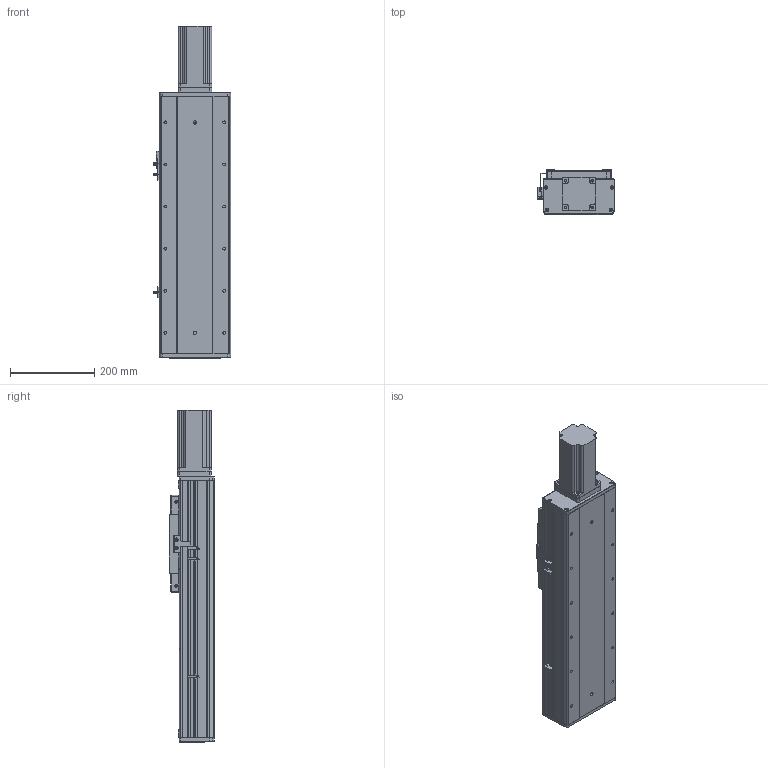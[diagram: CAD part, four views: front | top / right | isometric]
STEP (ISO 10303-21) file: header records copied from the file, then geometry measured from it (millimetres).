
FILE_DESCRIPTION (( 'STEP AP203' ), '1' );
FILE_NAME ('RY170F-L2020-300-MK.SLDASM_300.step', '2021-03-02T06:30:55', ( '盈信电脑' ), ( '东莞市道滘镇水果街19号' ), 'SwSTEP 2.0', 'SolidWorks 2012', '' );
FILE_SCHEMA (( 'CONFIG_CONTROL_DESIGN' ));
Products named in the file (22): RY170F-300眻蟀倰第奻裔啣-MK; RY170F-300眻蟀倰第菁釱-MK; RY170F-300眻蟀祥凄詩湍-MK; RY170F-L2020-300-MK.SLDASM_300; 覜茼ん674; 怢湛750W萇儂ㄗ80遺ㄘ; 侐源滅袉蝶; 750W萇儂梓袧蛌諉啣; 滅袉蝶18-24; RY170F-揤踡謫假蚾粣; RY170F-詩湍揤踡輸; RY170F俋离覜茼え; 覜茼ん672; 滅袉蝶18-10; RY170F-直连前盖板(铝件）; RY170F-后盖板(铝件）; RY100F-詩湍揤踡謫; 15; 侂狟400W侜督萇儂; RY170F-丝杆铝滑块连接板; RY170F-滅鳥奻裔; RY170F-佪裝臏賑輸20蹟譫
Assembly tree (26 placements, depth 3):
  RY170F-L2020-300-MK.SLDASM_300
    RY170F-300眻蟀倰第菁釱-MK
    RY170F-300眻蟀祥凄詩湍-MK
    RY170F-300眻蟀倰第奻裔啣-MK  x2
    RY170F-滅鳥奻裔
    RY170F-佪裝臏賑輸20蹟譫
    RY170F-丝杆铝滑块连接板
    侂狟400W侜督萇儂
      15
    RY170F-直连前盖板(铝件）
    滅袉蝶18-10
    RY100F-詩湍揤踡謫
    RY170F-后盖板(铝件）
    覜茼ん672  x3
    RY170F俋离覜茼え
    RY170F-揤踡謫假蚾粣
    RY170F-詩湍揤踡輸  x2
    滅袉蝶18-24
    750W萇儂梓袧蛌諉啣
    怢湛750W萇儂ㄗ80遺ㄘ
    侐源滅袉蝶  x2
    覜茼ん674
Bounding box: 183.7 x 107 x 789 mm (x, y, z)
Volume: 4870629.8 mm3; surface area: 1381714.5 mm2
Topology: 25 solids, 25 shells, 2188 faces, 6035 edges, 3878 vertices
Faces by surface type: plane 1001, cylinder 961, cone 208, bspline 18
Entity records: 64179 total; most frequent: CARTESIAN_POINT 12717, DIRECTION 10489, ORIENTED_EDGE 10070, EDGE_CURVE 5035, AXIS2_PLACEMENT_3D 3716, VERTEX_POINT 3298, VECTOR 3057, LINE 3057
